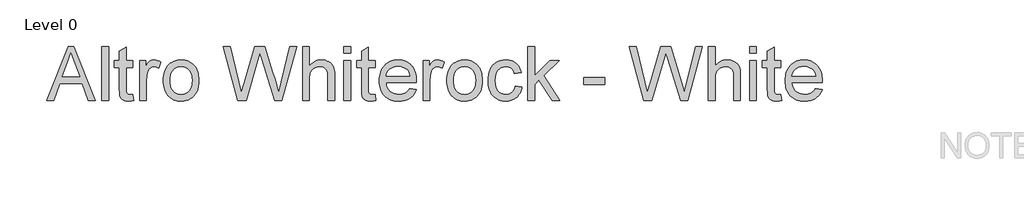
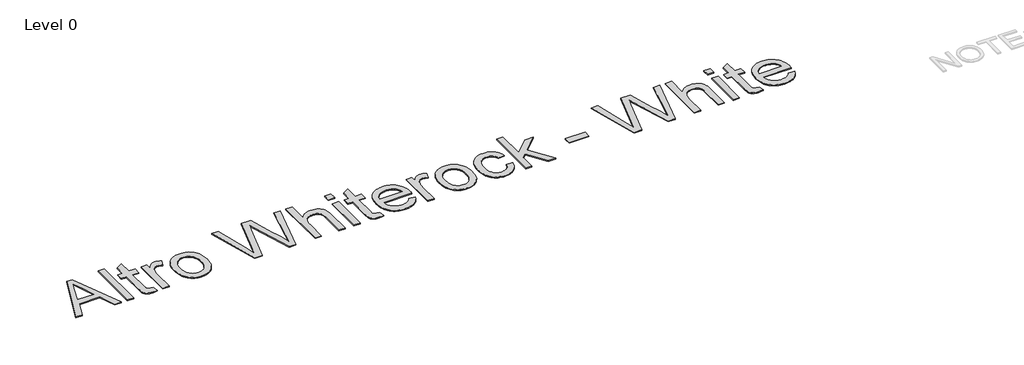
# One storey, part 2 of 6: 1 proxy.
"""IFC4 building model written with IfcOpenShell, lengths in millimetres."""

from ifc_helpers import new_model, si_unit, origin, origin_with_axes, place, context, project, spatial, polyline, outline, extrude, element, save

model = new_model("IFC4")

# Units and contexts
model_context = context("Model", 3, world=origin())
ifc_project = project(units=[si_unit("LENGTHUNIT", "METRE", prefix="MILLI")], contexts=[model_context])

# Site, building, storey
site = spatial("IfcSite", under=ifc_project)
building = spatial("IfcBuilding", under=site)
storey = spatial("IfcBuildingStorey", under=building, Name="Level 0", Elevation=0.0)

# Proxy
placement = place(None, origin())
element("IfcBuildingElementProxy", 1, Name="600mm Arial", ObjectType="600mm Arial", at=placement, inside=storey, context=model_context, shape_type="SweptSolid", body=[
    extrude(outline(polyline([(-87996.1464357, 99530.4760806), (-87407.0431242, 101006.2969761), (-87249.9489077, 101006.2969761), (-86660.8455962, 99530.4760806), (-86855.7721354, 99530.4760806), (-87024.7565104, 99991.6701105), (-87632.5958294, 99991.6701105), (-87801.2198966, 99530.4760806), (-87996.1464357, 99530.4760806)]), holes=[polyline([(-87564.8579563, 100176.1477224), (-87092.1340757, 100176.1477224), (-87225.0876671, 100538.9777131), (-87328.496016, 100821.8193642), (-87420.3745141, 100570.6848026), (-87564.8579563, 100176.1477224)])]), origin_with_axes(), (0.0, 0.0, 1.0), 25.0),
    extrude(outline(polyline([(-86486.8169115, 99530.4760806), (-86486.8169115, 101006.2969761), (-86302.3392995, 101006.2969761), (-86302.3392995, 99530.4760806), (-86486.8169115, 99530.4760806)])), origin_with_axes(), (0.0, 0.0, 1.0), 25.0),
    extrude(outline(polyline([(-85633.6079563, 99684.3275265), (-85610.5482548, 99525.0714631), (-85683.6006685, 99511.8301501), (-85748.5461559, 99507.4163791), (-85795.6338862, 99509.3305145), (-85837.0918065, 99515.0729206), (-85872.919917, 99524.6435975), (-85903.1182174, 99538.0425452), (-85928.4748814, 99554.5491479), (-85949.7780822, 99573.44279), (-85967.0278198, 99594.7234716), (-85980.2240943, 99618.3911926), (-85989.9974444, 99650.1208013), (-85996.9784087, 99695.5871464), (-86001.1669873, 99754.7902277), (-86002.5631801, 99827.7300452), (-86002.5631801, 100429.8044388), (-86140.9213891, 100429.8044388), (-86140.9213891, 100614.2820508), (-86002.5631801, 100614.2820508), (-86002.5631801, 100877.6670788), (-85818.0855682, 100986.1197373), (-85818.0855682, 100614.2820508), (-85633.6079563, 100614.2820508), (-85633.6079563, 100429.8044388), (-85818.0855682, 100429.8044388), (-85818.0855682, 99833.1346627), (-85815.6534903, 99772.4227924), (-85808.3572566, 99738.013394), (-85795.6113669, 99718.9621172), (-85776.830321, 99704.3246114), (-85750.2125796, 99695.0016461), (-85713.9566036, 99691.8939911), (-85633.6079563, 99684.3275265)])), origin_with_axes(), (0.0, 0.0, 1.0), 25.0),
    extrude(outline(polyline([(-85449.1303443, 99530.4760806), (-85449.1303443, 100614.2820508), (-85287.7124339, 100614.2820508), (-85287.7124339, 100453.9450638), (-85257.3114602, 100505.1988535), (-85228.081487, 100546.9044855), (-85200.0225143, 100579.0619598), (-85173.1345421, 100601.6712765), (-85146.2015313, 100617.2771097), (-85118.0074432, 100628.4241333), (-85088.5522776, 100635.1123475), (-85057.8360346, 100637.3417523), (-85012.0769395, 100633.7837124), (-84965.9575365, 100623.1095927), (-84919.4778257, 100605.3193934), (-84872.637807, 100580.4131142), (-84934.2504469, 100415.0318176), (-84966.6781521, 100431.5834588), (-84999.1058574, 100443.4060596), (-85031.5335626, 100450.4996201), (-85063.9612678, 100452.8641403), (-85092.2341733, 100450.5896971), (-85119.0433282, 100443.7663675), (-85144.3887325, 100432.3941514), (-85168.2703863, 100416.4730489), (-85189.7875199, 100396.5210025), (-85208.0393637, 100373.0559547), (-85223.0259177, 100346.0779055), (-85234.747182, 100315.5868549), (-85247.8308603, 100265.2338348), (-85257.1763448, 100212.5388138), (-85262.7836355, 100157.5017919), (-85264.6527324, 100100.122769), (-85264.6527324, 99530.4760806), (-85449.1303443, 99530.4760806)])), origin_with_axes(), (0.0, 0.0, 1.0), 25.0),
    extrude(outline(polyline([(-84803.4587025, 100072.3790657), (-84800.9646967, 100144.9867244), (-84793.4826793, 100212.741487), (-84781.0126503, 100275.6433534), (-84763.5546097, 100333.6923236), (-84741.1085575, 100386.8883977), (-84713.6744937, 100435.2315756), (-84681.2524183, 100478.7218573), (-84643.8423313, 100517.3592429), (-84609.6018272, 100545.4801436), (-84573.5372648, 100569.8515908), (-84535.6486439, 100590.4735846), (-84495.9359646, 100607.3461249), (-84454.399227, 100620.4692119), (-84411.0384308, 100629.8428454), (-84365.8535763, 100635.4670256), (-84318.8446633, 100637.3417523), (-84266.7379575, 100635.0588643), (-84217.0689593, 100628.2102005), (-84169.8376689, 100616.7957609), (-84125.0440862, 100600.8155454), (-84082.6882111, 100580.269554), (-84042.7700438, 100555.1577868), (-84005.2895841, 100525.4802438), (-83970.2468322, 100491.2369248), (-83938.5369277, 100452.9682918), (-83911.0550105, 100411.2148064), (-83887.8010806, 100365.9764687), (-83868.7751379, 100317.2532786), (-83853.9771825, 100265.0452362), (-83843.4072144, 100209.3523414), (-83837.0652335, 100150.1745943), (-83834.9512398, 100087.5119948), (-83838.6894336, 99988.7651285), (-83849.904015, 99901.1427667), (-83868.594984, 99824.6449093), (-83894.7623406, 99759.2715564), (-83928.0795558, 99702.8045627), (-83968.2201006, 99653.0257833), (-84015.1839751, 99609.935218), (-84068.9711792, 99573.532867), (-84127.4874237, 99544.6069036), (-84188.6384192, 99523.9455011), (-84252.4241657, 99511.5486596), (-84318.8446633, 99507.4163791), (-84371.7733214, 99509.6908223), (-84422.1066372, 99516.514152), (-84469.8446105, 99527.886368), (-84514.9872415, 99543.8074705), (-84557.53453, 99564.2774595), (-84597.4864763, 99589.2963348), (-84634.8430801, 99618.8640966), (-84669.6043415, 99652.9807448), (-84700.9764574, 99691.3760486), (-84728.1656245, 99733.779777), (-84751.1718428, 99780.1919301), (-84769.9951123, 99830.6125079), (-84784.635433, 99885.0415103), (-84795.092805, 99943.4789374), (-84801.3672281, 100005.9247892), (-84803.4587025, 100072.3790657)]), holes=[polyline([(-84618.9810906, 100072.7393735), (-84613.6440308, 99983.2591744), (-84606.972706, 99943.0201079), (-84597.6328513, 99905.7817301), (-84585.6244667, 99871.544041), (-84570.9475522, 99840.3070406), (-84553.6021078, 99812.0707288), (-84533.5881335, 99786.8351058), (-84488.1443077, 99745.2983681), (-84463.3618844, 99728.980364), (-84437.2057874, 99715.6292697), (-84409.6760168, 99705.2450853), (-84380.7725726, 99697.8278107), (-84318.8446633, 99691.8939911), (-84257.2320234, 99697.8615896), (-84228.452435, 99705.3210878), (-84201.024001, 99715.7643852), (-84174.9467214, 99729.1914819), (-84150.2205962, 99745.6023778), (-84104.8218089, 99787.3755676), (-84084.8078345, 99812.8110488), (-84067.4623901, 99841.3767045), (-84052.7854756, 99873.0725344), (-84040.777091, 99907.8985386), (-84031.4372364, 99945.8547172), (-84024.7659116, 99986.9410701), (-84019.4288518, 100078.5042989), (-84024.7996905, 100165.1470738), (-84031.5132388, 100204.2714379), (-84040.9122065, 100240.5977865), (-84052.9965935, 100274.1261196), (-84067.7663999, 100304.8564371), (-84085.2216256, 100332.7887391), (-84105.3622706, 100357.9230256), (-84150.9299522, 100399.4597633), (-84175.6645222, 100415.7777674), (-84201.6995782, 100429.1288616), (-84229.0351204, 100439.5130461), (-84257.6711486, 100446.9303206), (-84318.8446633, 100452.8641403), (-84380.7725726, 100446.9528399), (-84409.6760168, 100439.5637143), (-84437.2057874, 100429.2189386), (-84463.3618844, 100415.9185126), (-84488.1443077, 100399.6624364), (-84533.5881335, 100358.2833334), (-84553.6021078, 100333.1321575), (-84570.9475522, 100304.9690333), (-84585.6244667, 100273.7939608), (-84597.6328513, 100239.60694), (-84606.972706, 100202.4079708), (-84613.6440308, 100162.1970534), (-84618.9810906, 100072.7393735)])]), origin_with_axes(), (0.0, 0.0, 1.0), 25.0),
    extrude(outline(polyline([(-82763.7560439, 99530.4760806), (-83166.2198966, 101006.2969761), (-82975.9773592, 101006.2969761), (-82742.4978816, 100036.3482821), (-82670.4363145, 99736.9324705), (-82593.3304376, 100001.7587299), (-82300.7604749, 101006.2969761), (-82026.5662119, 101006.2969761), (-81813.9845887, 100278.1148399), (-81765.4556271, 100143.0894785), (-81722.9167832, 100007.8839631), (-81686.3680571, 99872.4982938), (-81655.8094488, 99736.9324705), (-81585.9097286, 100027.700894), (-81350.268404, 101006.2969761), (-81160.0258667, 101006.2969761), (-81562.8500271, 99530.4760806), (-81759.9384133, 99530.4760806), (-82113.7607081, 100669.0488418), (-82163.1228816, 100827.9445974), (-82218.6102883, 100636.6211366), (-82541.0858014, 99530.4760806), (-82763.7560439, 99530.4760806)])), origin_with_axes(), (0.0, 0.0, 1.0), 25.0),
    extrude(outline(polyline([(-80998.6079563, 99530.4760806), (-80998.6079563, 101006.2969761), (-80814.1303443, 101006.2969761), (-80814.1303443, 100463.6733754), (-80781.291663, 100504.3769012), (-80746.3699519, 100539.6532903), (-80709.3652112, 100569.5025425), (-80670.2774409, 100593.924658), (-80629.1066408, 100612.9196368), (-80585.8528111, 100626.4874787), (-80540.5159517, 100634.6281839), (-80493.0960626, 100637.3417523), (-80435.4242896, 100634.3804722), (-80381.6708644, 100625.4966322), (-80331.8357868, 100610.690232), (-80285.919057, 100589.9612718), (-80245.0916754, 100564.007848), (-80210.5246424, 100533.5280571), (-80182.217958, 100498.5218989), (-80160.1716223, 100458.9893735), (-80143.6199811, 100412.4871435), (-80131.7973802, 100356.5718712), (-80124.7038197, 100291.2435567), (-80122.3392995, 100216.5022), (-80122.3392995, 99530.4760806), (-80306.8169115, 99530.4760806), (-80306.8169115, 100197.4058847), (-80310.4875476, 100259.6941018), (-80321.4994558, 100312.8845461), (-80339.8526362, 100356.9772175), (-80365.5470887, 100391.9721161), (-80397.9747939, 100418.6123767), (-80436.5277324, 100437.6411343), (-80481.205904, 100449.0583888), (-80532.0093089, 100452.8641403), (-80571.5868727, 100450.296947), (-80609.9709168, 100442.595367), (-80647.1614413, 100429.7594003), (-80683.158446, 100411.789047), (-80716.0140168, 100389.427442), (-80743.7802394, 100363.4177201), (-80766.4571138, 100333.7598813), (-80784.04464, 100300.4539258), (-80797.2071356, 100261.9685451), (-80806.6089182, 100216.7724309), (-80812.2499878, 100164.8655833), (-80814.1303443, 100106.2480023), (-80814.1303443, 99530.4760806), (-80998.6079563, 99530.4760806)])), origin_with_axes(), (0.0, 0.0, 1.0), 25.0),
    extrude(outline(polyline([(-79868.6825831, 100821.8193642), (-79868.6825831, 101006.2969761), (-79684.2049712, 101006.2969761), (-79684.2049712, 100821.8193642), (-79868.6825831, 100821.8193642)])), origin_with_axes(), (0.0, 0.0, 1.0), 25.0),
    extrude(outline(polyline([(-79868.6825831, 99530.4760806), (-79868.6825831, 100614.2820508), (-79684.2049712, 100614.2820508), (-79684.2049712, 99530.4760806), (-79868.6825831, 99530.4760806)])), origin_with_axes(), (0.0, 0.0, 1.0), 25.0),
    extrude(outline(polyline([(-79015.4736279, 99684.3275265), (-78992.4139264, 99525.0714631), (-79065.4663401, 99511.8301501), (-79130.4118275, 99507.4163791), (-79177.4995578, 99509.3305145), (-79218.9574782, 99515.0729206), (-79254.7855886, 99524.6435975), (-79284.9838891, 99538.0425452), (-79310.340553, 99554.5491479), (-79331.6437538, 99573.44279), (-79348.8934915, 99594.7234716), (-79362.089766, 99618.3911926), (-79371.863116, 99650.1208013), (-79378.8440803, 99695.5871464), (-79383.0326589, 99754.7902277), (-79384.4288518, 99827.7300452), (-79384.4288518, 100429.8044388), (-79522.7870607, 100429.8044388), (-79522.7870607, 100614.2820508), (-79384.4288518, 100614.2820508), (-79384.4288518, 100877.6670788), (-79199.9512398, 100986.1197373), (-79199.9512398, 100614.2820508), (-79015.4736279, 100614.2820508), (-79015.4736279, 100429.8044388), (-79199.9512398, 100429.8044388), (-79199.9512398, 99833.1346627), (-79197.5191619, 99772.4227924), (-79190.2229283, 99738.013394), (-79177.4770386, 99718.9621172), (-79158.6959926, 99704.3246114), (-79132.0782513, 99695.0016461), (-79095.8222753, 99691.8939911), (-79015.4736279, 99684.3275265)])), origin_with_axes(), (0.0, 0.0, 1.0), 25.0),
    extrude(outline(polyline([(-78072.1877137, 99853.3119015), (-77891.3131801, 99830.2522), (-77919.0456239, 99757.8078058), (-77936.5515179, 99724.8114898), (-77956.4838599, 99693.9657611), (-77978.8426501, 99665.2706199), (-78003.6278883, 99638.726066), (-78030.8395747, 99614.3320996), (-78060.4777091, 99592.0887205), (-78092.3959165, 99572.2436405), (-78126.4478219, 99555.0445712), (-78162.6334252, 99540.4915125), (-78200.9527265, 99528.5844645), (-78283.9924231, 99512.7084005), (-78375.5669115, 99507.4163791), (-78434.3590166, 99509.6992671), (-78490.0322071, 99516.5479308), (-78542.5864828, 99527.9623705), (-78592.0218438, 99543.942586), (-78638.3382902, 99564.4885773), (-78681.5358218, 99589.6003446), (-78721.6144387, 99619.2778876), (-78758.574141, 99653.5212065), (-78791.7618705, 99691.8855463), (-78820.5245695, 99733.926152), (-78844.8622378, 99779.6430236), (-78864.7748756, 99829.0361611), (-78880.2624827, 99882.1055644), (-78891.3250592, 99938.8512337), (-78897.9626051, 99999.2731688), (-78900.1751204, 100063.3713698), (-78897.9400859, 100129.6511222), (-78891.2349823, 100192.1138634), (-78880.0598095, 100250.7595935), (-78864.4145677, 100305.5883124), (-78844.2992568, 100356.6000202), (-78819.7138768, 100403.7947169), (-78790.6584278, 100447.1724025), (-78757.1329096, 100486.7330769), (-78720.0437218, 100522.0319852), (-78680.2972636, 100552.6243724), (-78637.8935352, 100578.5102384), (-78592.8325365, 100599.6895834), (-78545.1142675, 100616.1624073), (-78494.7387282, 100627.92871), (-78441.7059186, 100634.9884917), (-78386.0158387, 100637.3417523), (-78332.1470024, 100634.9941215), (-78280.794691, 100627.9512293), (-78231.9589048, 100616.2130756), (-78185.6396435, 100599.7796604), (-78141.8369073, 100578.6509837), (-78100.5506962, 100552.8270455), (-78061.7810101, 100522.3078459), (-78025.527849, 100487.0933847), (-77992.7201316, 100447.6227873), (-77964.2867765, 100404.3351787), (-77940.2277838, 100357.230559), (-77920.5431533, 100306.3089281), (-77905.2328852, 100251.5702861), (-77894.2969794, 100193.014633), (-77887.7354359, 100130.6419687), (-77885.5482548, 100064.4522933), (-77886.6291783, 100014.729812), (-78715.6975085, 100014.729812), (-78705.0121292, 99941.1144173), (-78695.7088683, 99907.7352742), (-78683.7652265, 99876.6418339), (-78669.1812039, 99847.8340964), (-78651.9568004, 99821.3120618), (-78632.0920161, 99797.0757301), (-78609.5868508, 99775.1251011), (-78558.9973788, 99738.7114905), (-78502.5303851, 99712.7017686), (-78440.1858699, 99697.0959354), (-78371.9638331, 99691.8939911), (-78320.9352359, 99694.3035497), (-78273.7799479, 99701.5322257), (-78230.4979691, 99713.5800189), (-78191.0892995, 99730.4469295), (-78155.5539392, 99752.5833422), (-78123.8918882, 99780.4396417), (-78096.1031463, 99814.0158282), (-78072.1877137, 99853.3119015)]), holes=[polyline([(-78715.6975085, 100199.2074239), (-78070.0258667, 100199.2074239), (-78079.5064666, 100251.4070216), (-78094.9771843, 100296.6706935), (-78116.4380198, 100334.9984395), (-78143.888973, 100366.3902597), (-78168.1759731, 100386.6575755), (-78194.1969546, 100404.2225825), (-78221.9519176, 100419.0852807), (-78251.440862, 100431.2456702), (-78315.6206953, 100447.4595228), (-78386.7364544, 100452.8641403), (-78451.6031245, 100448.5517059), (-78511.0876962, 100435.6144027), (-78565.1901697, 100414.0522306), (-78613.9105449, 100383.8651898), (-78654.7942246, 100346.4494729), (-78685.3866118, 100303.201273), (-78705.6877064, 100254.12059), (-78715.6975085, 100199.2074239)])]), origin_with_axes(), (0.0, 0.0, 1.0), 25.0),
    extrude(outline(polyline([(-77701.0706428, 99530.4760806), (-77701.0706428, 100614.2820508), (-77539.6527324, 100614.2820508), (-77539.6527324, 100453.9450638), (-77509.2517587, 100505.1988535), (-77480.0217855, 100546.9044855), (-77451.9628128, 100579.0619598), (-77425.0748406, 100601.6712765), (-77398.1418299, 100617.2771097), (-77369.9477417, 100628.4241333), (-77340.4925761, 100635.1123475), (-77309.7763331, 100637.3417523), (-77264.017238, 100633.7837124), (-77217.897835, 100623.1095927), (-77171.4181242, 100605.3193934), (-77124.5781055, 100580.4131142), (-77186.1907454, 100415.0318176), (-77218.6184507, 100431.5834588), (-77251.0461559, 100443.4060596), (-77283.4738611, 100450.4996201), (-77315.9015663, 100452.8641403), (-77344.1744718, 100450.5896971), (-77370.9836267, 100443.7663675), (-77396.3290311, 100432.3941514), (-77420.2106848, 100416.4730489), (-77441.7278184, 100396.5210025), (-77459.9796622, 100373.0559547), (-77474.9662162, 100346.0779055), (-77486.6874805, 100315.5868549), (-77499.7711588, 100265.2338348), (-77509.1166433, 100212.5388138), (-77514.723934, 100157.5017919), (-77516.5930309, 100100.122769), (-77516.5930309, 99530.4760806), (-77701.0706428, 99530.4760806)])), origin_with_axes(), (0.0, 0.0, 1.0), 25.0),
    extrude(outline(polyline([(-77055.399001, 100072.3790657), (-77052.9049952, 100144.9867244), (-77045.4229778, 100212.741487), (-77032.9529488, 100275.6433534), (-77015.4949082, 100333.6923236), (-76993.048856, 100386.8883977), (-76965.6147922, 100435.2315756), (-76933.1927168, 100478.7218573), (-76895.7826298, 100517.3592429), (-76861.5421257, 100545.4801436), (-76825.4775633, 100569.8515908), (-76787.5889424, 100590.4735846), (-76747.8762632, 100607.3461249), (-76706.3395255, 100620.4692119), (-76662.9787293, 100629.8428454), (-76617.7938748, 100635.4670256), (-76570.7849619, 100637.3417523), (-76518.678256, 100635.0588643), (-76469.0092579, 100628.2102005), (-76421.7779674, 100616.7957609), (-76376.9843847, 100600.8155454), (-76334.6285096, 100580.269554), (-76294.7103423, 100555.1577868), (-76257.2298826, 100525.4802438), (-76222.1871307, 100491.2369248), (-76190.4772262, 100452.9682918), (-76162.995309, 100411.2148064), (-76139.7413791, 100365.9764687), (-76120.7154364, 100317.2532786), (-76105.917481, 100265.0452362), (-76095.3475129, 100209.3523414), (-76089.005532, 100150.1745943), (-76086.8915383, 100087.5119948), (-76090.6297321, 99988.7651285), (-76101.8443135, 99901.1427667), (-76120.5352825, 99824.6449093), (-76146.7026391, 99759.2715564), (-76180.0198543, 99702.8045627), (-76220.1603991, 99653.0257833), (-76267.1242736, 99609.935218), (-76320.9114777, 99573.532867), (-76379.4277222, 99544.6069036), (-76440.5787177, 99523.9455011), (-76504.3644642, 99511.5486596), (-76570.7849619, 99507.4163791), (-76623.71362, 99509.6908223), (-76674.0469357, 99516.514152), (-76721.784909, 99527.886368), (-76766.92754, 99543.8074705), (-76809.4748286, 99564.2774595), (-76849.4267748, 99589.2963348), (-76886.7833786, 99618.8640966), (-76921.54464, 99652.9807448), (-76952.9167559, 99691.3760486), (-76980.105923, 99733.779777), (-77003.1121413, 99780.1919301), (-77021.9354108, 99830.6125079), (-77036.5757315, 99885.0415103), (-77047.0331035, 99943.4789374), (-77053.3075266, 100005.9247892), (-77055.399001, 100072.3790657)]), holes=[polyline([(-76870.9213891, 100072.7393735), (-76865.5843293, 99983.2591744), (-76858.9130045, 99943.0201079), (-76849.5731498, 99905.7817301), (-76837.5647652, 99871.544041), (-76822.8878507, 99840.3070406), (-76805.5424063, 99812.0707288), (-76785.528432, 99786.8351058), (-76740.0846062, 99745.2983681), (-76715.3021829, 99728.980364), (-76689.1460859, 99715.6292697), (-76661.6163153, 99705.2450853), (-76632.7128711, 99697.8278107), (-76570.7849619, 99691.8939911), (-76509.1723219, 99697.8615896), (-76480.3927335, 99705.3210878), (-76452.9642995, 99715.7643852), (-76426.8870199, 99729.1914819), (-76402.1608947, 99745.6023778), (-76356.7621074, 99787.3755676), (-76336.7481331, 99812.8110488), (-76319.4026886, 99841.3767045), (-76304.7257741, 99873.0725344), (-76292.7173896, 99907.8985386), (-76283.3775349, 99945.8547172), (-76276.7062101, 99986.9410701), (-76271.3691503, 100078.5042989), (-76276.739989, 100165.1470738), (-76283.4535373, 100204.2714379), (-76292.852505, 100240.5977865), (-76304.936892, 100274.1261196), (-76319.7066984, 100304.8564371), (-76337.1619241, 100332.7887391), (-76357.3025691, 100357.9230256), (-76402.8702507, 100399.4597633), (-76427.6048207, 100415.7777674), (-76453.6398767, 100429.1288616), (-76480.9754189, 100439.5130461), (-76509.6114471, 100446.9303206), (-76570.7849619, 100452.8641403), (-76632.7128711, 100446.9528399), (-76661.6163153, 100439.5637143), (-76689.1460859, 100429.2189386), (-76715.3021829, 100415.9185126), (-76740.0846062, 100399.6624364), (-76785.528432, 100358.2833334), (-76805.5424063, 100333.1321575), (-76822.8878507, 100304.9690333), (-76837.5647652, 100273.7939608), (-76849.5731498, 100239.60694), (-76858.9130045, 100202.4079708), (-76865.5843293, 100162.1970534), (-76870.9213891, 100072.7393735)])]), origin_with_axes(), (0.0, 0.0, 1.0), 25.0),
    extrude(outline(polyline([(-75187.5631801, 99922.491006), (-75003.0855682, 99899.4313045), (-75011.7048072, 99854.6546112), (-75023.1502108, 99812.3831833), (-75037.421779, 99772.6170208), (-75054.5195118, 99735.3561238), (-75074.4434091, 99700.6004921), (-75097.1934711, 99668.3501259), (-75122.7696976, 99638.6050251), (-75151.1720887, 99611.3651898), (-75181.8320336, 99587.0021873), (-75214.1809215, 99565.8875851), (-75248.2187524, 99548.0213833), (-75283.9455262, 99533.4035818), (-75321.361243, 99522.0341806), (-75360.4659028, 99513.9131798), (-75401.2595056, 99509.0405793), (-75443.7420514, 99507.4163791), (-75496.8114548, 99509.6823776), (-75547.2066984, 99516.4803731), (-75594.9277823, 99527.8103656), (-75639.9747065, 99543.6723551), (-75682.347471, 99564.0663416), (-75722.0460757, 99588.9923251), (-75759.0705208, 99618.4503056), (-75793.4208061, 99652.440283), (-75824.3706862, 99690.6638776), (-75851.1939156, 99732.8227093), (-75873.8904944, 99778.9167781), (-75892.4604224, 99828.9460841), (-75906.9036998, 99882.9106272), (-75917.2203265, 99940.8104075), (-75923.4103026, 100002.6454249), (-75925.4736279, 100068.4156795), (-75921.9493669, 100153.234396), (-75911.3765838, 100232.5809372), (-75893.7552787, 100306.4553032), (-75869.0854516, 100374.8574939), (-75837.1982081, 100436.4138357), (-75797.924654, 100489.750655), (-75751.2647893, 100534.8679518), (-75697.2186139, 100571.7657261), (-75638.2294654, 100600.4552376), (-75576.7406813, 100620.9477457), (-75512.7522616, 100633.2432506), (-75446.2642063, 100637.3417523), (-75364.4180294, 100631.7119423), (-75326.4252571, 100624.6746799), (-75290.3860288, 100614.8225125), (-75256.3003445, 100602.1554402), (-75224.1682043, 100586.6734628), (-75193.9896082, 100568.3765806), (-75165.7645561, 100547.2647933), (-75139.7407596, 100523.5632935), (-75116.1659305, 100497.4972735), (-75095.0400688, 100469.0667333), (-75076.3631743, 100438.271673), (-75060.1352472, 100405.1120925), (-75046.3562874, 100369.5879918), (-75026.1452697, 100291.4462299), (-75210.6228816, 100268.3865284), (-75225.0239354, 100311.4770936), (-75244.0864719, 100348.8702912), (-75267.8104909, 100380.5661211), (-75296.1959926, 100406.5645834), (-75328.5223613, 100426.8206396), (-75364.0689812, 100441.2892511), (-75402.8358524, 100449.970418), (-75444.8229749, 100452.8641403), (-75507.5052787, 100447.1667727), (-75564.0398301, 100430.0746697), (-75590.0016986, 100417.2555925), (-75614.426629, 100401.5878314), (-75658.6656755, 100361.7062579), (-75677.961849, 100337.2616231), (-75694.6851994, 100309.5066601), (-75708.8357267, 100278.4413689), (-75720.4134308, 100244.0657495), (-75735.8503697, 100165.3835258), (-75740.996016, 100073.4599892), (-75735.9629659, 99980.1515193), (-75720.8638156, 99900.5572665), (-75709.5394529, 99865.9029714), (-75695.6985652, 99834.6772306), (-75679.3411525, 99806.8800441), (-75660.4672146, 99782.5114118), (-75617.1064185, 99742.8662902), (-75593.1037239, 99727.291421), (-75567.5528315, 99714.5483462), (-75511.8064535, 99697.5575799), (-75449.8672846, 99691.8939911), (-75399.9533897, 99695.4295117), (-75354.3406696, 99706.0360736), (-75313.0291243, 99723.7136768), (-75276.0187538, 99748.4623213), (-75244.3454431, 99780.5522379), (-75219.0450773, 99820.2536576), (-75200.1176563, 99867.5665803), (-75187.5631801, 99922.491006)])), origin_with_axes(), (0.0, 0.0, 1.0), 25.0),
    extrude(outline(polyline([(-74841.6676577, 99530.4760806), (-74841.6676577, 101006.2969761), (-74657.1900458, 101006.2969761), (-74657.1900458, 100213.2594295), (-74243.5566503, 100614.2820508), (-73988.4587025, 100614.2820508), (-74407.1364077, 100208.2151198), (-73965.399001, 99530.4760806), (-74180.8630869, 99530.4760806), (-74539.3693835, 100079.9455302), (-74657.1900458, 99965.7279463), (-74657.1900458, 99530.4760806), (-74841.6676577, 99530.4760806)])), origin_with_axes(), (0.0, 0.0, 1.0), 25.0),
    extrude(outline(polyline([(-73319.7273592, 99968.610409), (-73319.7273592, 100153.0880209), (-72743.2348219, 100153.0880209), (-72743.2348219, 99968.610409), (-73319.7273592, 99968.610409)])), origin_with_axes(), (0.0, 0.0, 1.0), 25.0),
    extrude(outline(polyline([(-71672.039626, 99530.4760806), (-72074.5034786, 101006.2969761), (-71884.2609413, 101006.2969761), (-71650.7814637, 100036.3482821), (-71578.7198966, 99736.9324705), (-71501.6140197, 100001.7587299), (-71209.044057, 101006.2969761), (-70934.8497939, 101006.2969761), (-70722.2681708, 100278.1148399), (-70673.7392092, 100143.0894785), (-70631.2003653, 100007.8839631), (-70594.6516392, 99872.4982938), (-70564.0930309, 99736.9324705), (-70494.1933107, 100027.700894), (-70258.5519861, 101006.2969761), (-70068.3094488, 101006.2969761), (-70471.1336092, 99530.4760806), (-70668.2219954, 99530.4760806), (-71022.0442902, 100669.0488418), (-71071.4064637, 100827.9445974), (-71126.8938704, 100636.6211366), (-71449.3693835, 99530.4760806), (-71672.039626, 99530.4760806)])), origin_with_axes(), (0.0, 0.0, 1.0), 25.0),
    extrude(outline(polyline([(-69906.8915383, 99530.4760806), (-69906.8915383, 101006.2969761), (-69722.4139264, 101006.2969761), (-69722.4139264, 100463.6733754), (-69689.5752451, 100504.3769012), (-69654.653534, 100539.6532903), (-69617.6487933, 100569.5025425), (-69578.561023, 100593.924658), (-69537.3902229, 100612.9196368), (-69494.1363932, 100626.4874787), (-69448.7995338, 100634.6281839), (-69401.3796447, 100637.3417523), (-69343.7078717, 100634.3804722), (-69289.9544465, 100625.4966322), (-69240.1193689, 100610.690232), (-69194.2026391, 100589.9612718), (-69153.3752574, 100564.007848), (-69118.8082244, 100533.5280571), (-69090.5015401, 100498.5218989), (-69068.4552044, 100458.9893735), (-69051.9035632, 100412.4871435), (-69040.0809623, 100356.5718712), (-69032.9874018, 100291.2435567), (-69030.6228816, 100216.5022), (-69030.6228816, 99530.4760806), (-69215.1004936, 99530.4760806), (-69215.1004936, 100197.4058847), (-69218.7711296, 100259.6941018), (-69229.7830379, 100312.8845461), (-69248.1362183, 100356.9772175), (-69273.8306708, 100391.9721161), (-69306.258376, 100418.6123767), (-69344.8113145, 100437.6411343), (-69389.4894861, 100449.0583888), (-69440.292891, 100452.8641403), (-69479.8704548, 100450.296947), (-69518.2544989, 100442.595367), (-69555.4450234, 100429.7594003), (-69591.4420281, 100411.789047), (-69624.2975989, 100389.427442), (-69652.0638215, 100363.4177201), (-69674.7406959, 100333.7598813), (-69692.3282221, 100300.4539258), (-69705.4907177, 100261.9685451), (-69714.8925003, 100216.7724309), (-69720.5335699, 100164.8655833), (-69722.4139264, 100106.2480023), (-69722.4139264, 99530.4760806), (-69906.8915383, 99530.4760806)])), origin_with_axes(), (0.0, 0.0, 1.0), 25.0),
    extrude(outline(polyline([(-68776.9661652, 99530.4760806), (-68776.9661652, 100614.2820508), (-68592.4885533, 100614.2820508), (-68592.4885533, 99530.4760806), (-68776.9661652, 99530.4760806)])), origin_with_axes(), (0.0, 0.0, 1.0), 25.0),
    extrude(outline(polyline([(-68776.9661652, 100821.8193642), (-68776.9661652, 101006.2969761), (-68592.4885533, 101006.2969761), (-68592.4885533, 100821.8193642), (-68776.9661652, 100821.8193642)])), origin_with_axes(), (0.0, 0.0, 1.0), 25.0),
    extrude(outline(polyline([(-67923.75721, 99684.3275265), (-67900.6975085, 99525.0714631), (-67973.7499222, 99511.8301501), (-68038.6954096, 99507.4163791), (-68085.7831399, 99509.3305145), (-68127.2410603, 99515.0729206), (-68163.0691707, 99524.6435975), (-68193.2674712, 99538.0425452), (-68218.6241351, 99554.5491479), (-68239.9273359, 99573.44279), (-68257.1770736, 99594.7234716), (-68270.373348, 99618.3911926), (-68280.1466981, 99650.1208013), (-68287.1276624, 99695.5871464), (-68291.316241, 99754.7902277), (-68292.7124339, 99827.7300452), (-68292.7124339, 100429.8044388), (-68431.0706428, 100429.8044388), (-68431.0706428, 100614.2820508), (-68292.7124339, 100614.2820508), (-68292.7124339, 100877.6670788), (-68108.2348219, 100986.1197373), (-68108.2348219, 100614.2820508), (-67923.75721, 100614.2820508), (-67923.75721, 100429.8044388), (-68108.2348219, 100429.8044388), (-68108.2348219, 99833.1346627), (-68105.802744, 99772.4227924), (-68098.5065104, 99738.013394), (-68085.7606207, 99718.9621172), (-68066.9795747, 99704.3246114), (-68040.3618334, 99695.0016461), (-68004.1058574, 99691.8939911), (-67923.75721, 99684.3275265)])), origin_with_axes(), (0.0, 0.0, 1.0), 25.0),
    extrude(outline(polyline([(-66980.4712958, 99853.3119015), (-66799.5967622, 99830.2522), (-66827.329206, 99757.8078058), (-66844.8351, 99724.8114898), (-66864.767442, 99693.9657611), (-66887.1262322, 99665.2706199), (-66911.9114704, 99638.726066), (-66939.1231567, 99614.3320996), (-66968.7612911, 99592.0887205), (-67000.6794986, 99572.2436405), (-67034.731404, 99555.0445712), (-67070.9170073, 99540.4915125), (-67109.2363086, 99528.5844645), (-67192.2760052, 99512.7084005), (-67283.8504936, 99507.4163791), (-67342.6425987, 99509.6992671), (-67398.3157892, 99516.5479308), (-67450.8700649, 99527.9623705), (-67500.3054259, 99543.942586), (-67546.6218723, 99564.4885773), (-67589.8194039, 99589.6003446), (-67629.8980208, 99619.2778876), (-67666.857723, 99653.5212065), (-67700.0454526, 99691.8855463), (-67728.8081516, 99733.926152), (-67753.1458199, 99779.6430236), (-67773.0584577, 99829.0361611), (-67788.5460648, 99882.1055644), (-67799.6086413, 99938.8512337), (-67806.2461872, 99999.2731688), (-67808.4587025, 100063.3713698), (-67806.223668, 100129.6511222), (-67799.5185643, 100192.1138634), (-67788.3433916, 100250.7595935), (-67772.6981498, 100305.5883124), (-67752.5828389, 100356.6000202), (-67727.9974589, 100403.7947169), (-67698.9420099, 100447.1724025), (-67665.4164917, 100486.7330769), (-67628.3273039, 100522.0319852), (-67588.5808457, 100552.6243724), (-67546.1771173, 100578.5102384), (-67501.1161186, 100599.6895834), (-67453.3978496, 100616.1624073), (-67403.0223103, 100627.92871), (-67349.9895007, 100634.9884917), (-67294.2994208, 100637.3417523), (-67240.4305844, 100634.9941215), (-67189.0782731, 100627.9512293), (-67140.2424868, 100616.2130756), (-67093.9232256, 100599.7796604), (-67050.1204894, 100578.6509837), (-67008.8342783, 100552.8270455), (-66970.0645921, 100522.3078459), (-66933.8114311, 100487.0933847), (-66901.0037137, 100447.6227873), (-66872.5703586, 100404.3351787), (-66848.5113658, 100357.230559), (-66828.8267354, 100306.3089281), (-66813.5164673, 100251.5702861), (-66802.5805615, 100193.014633), (-66796.019018, 100130.6419687), (-66793.8318369, 100064.4522933), (-66794.9127604, 100014.729812), (-67623.9810906, 100014.729812), (-67613.2957113, 99941.1144173), (-67603.9924504, 99907.7352742), (-67592.0488086, 99876.6418339), (-67577.464786, 99847.8340964), (-67560.2403825, 99821.3120618), (-67540.3755981, 99797.0757301), (-67517.8704329, 99775.1251011), (-67467.2809609, 99738.7114905), (-67410.8139672, 99712.7017686), (-67348.469452, 99697.0959354), (-67280.2474152, 99691.8939911), (-67229.218818, 99694.3035497), (-67182.0635299, 99701.5322257), (-67138.7815512, 99713.5800189), (-67099.3728816, 99730.4469295), (-67063.8375213, 99752.5833422), (-67032.1754702, 99780.4396417), (-67004.3867284, 99814.0158282), (-66980.4712958, 99853.3119015)]), holes=[polyline([(-67623.9810906, 100199.2074239), (-66978.3094488, 100199.2074239), (-66987.7900487, 100251.4070216), (-67003.2607664, 100296.6706935), (-67024.7216019, 100334.9984395), (-67052.1725551, 100366.3902597), (-67076.4595552, 100386.6575755), (-67102.4805367, 100404.2225825), (-67130.2354997, 100419.0852807), (-67159.7244441, 100431.2456702), (-67223.9042774, 100447.4595228), (-67295.0200365, 100452.8641403), (-67359.8867065, 100448.5517059), (-67419.3712783, 100435.6144027), (-67473.4737518, 100414.0522306), (-67522.194127, 100383.8651898), (-67563.0778067, 100346.4494729), (-67593.6701939, 100303.201273), (-67613.9712885, 100254.12059), (-67623.9810906, 100199.2074239)])]), origin_with_axes(), (0.0, 0.0, 1.0), 25.0),
])

save(model, "model.ifc")
